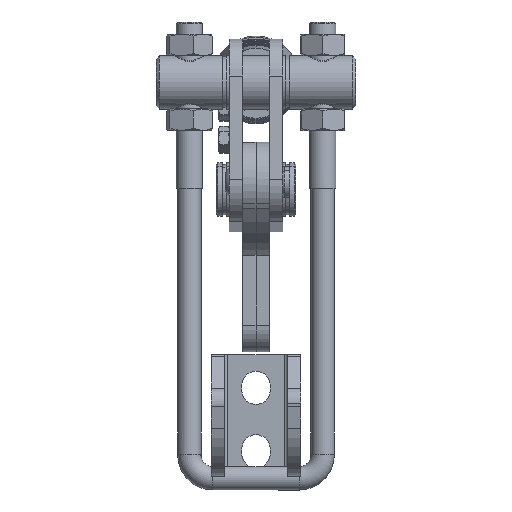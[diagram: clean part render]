
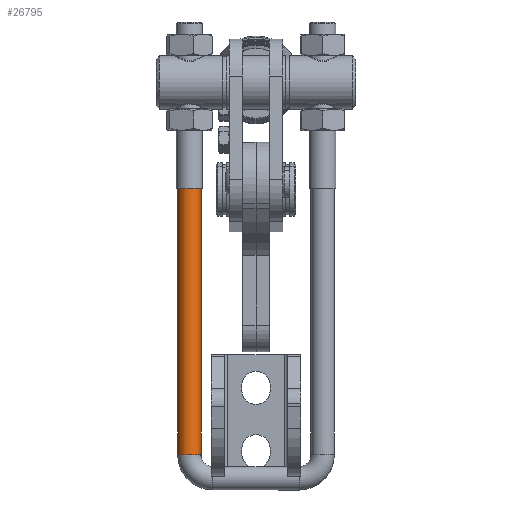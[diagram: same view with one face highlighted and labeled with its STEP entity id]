
A CAD part, left-side view. The second image highlights one B-rep face of the part: STEP entity #26795.
In plain terms, the highlighted cylindrical face has radius 3.5 mm (diameter 7 mm), a partial arc.
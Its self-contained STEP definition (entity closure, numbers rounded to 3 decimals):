
#199 = ORIENTED_EDGE ( 'NONE', *, *, #10025, .T. ) ;
#214 = LINE ( 'NONE', #21619, #7929 ) ;
#1005 = DIRECTION ( 'NONE',  ( 1., 0., 0. ) ) ;
#1051 = CARTESIAN_POINT ( 'NONE',  ( 7., 0., 23.5 ) ) ;
#2888 = VERTEX_POINT ( 'NONE', #13748 ) ;
#3103 = DIRECTION ( 'NONE',  ( 0., 0., -1. ) ) ;
#5924 = VERTEX_POINT ( 'NONE', #9829 ) ;
#7168 = ORIENTED_EDGE ( 'NONE', *, *, #25189, .F. ) ;
#7716 = CARTESIAN_POINT ( 'NONE',  ( 7., 0., 20. ) ) ;
#7902 = AXIS2_PLACEMENT_3D ( 'NONE', #16941, #1005, #3103 ) ;
#7929 = VECTOR ( 'NONE', #18970, 1000. ) ;
#8968 = EDGE_CURVE ( 'NONE', #11286, #5924, #33660, .T. ) ;
#9829 = CARTESIAN_POINT ( 'NONE',  ( 87., 0., 16.5 ) ) ;
#9972 = ORIENTED_EDGE ( 'NONE', *, *, #8968, .F. ) ;
#10025 = EDGE_CURVE ( 'NONE', #2888, #5924, #214, .T. ) ;
#10692 = FACE_OUTER_BOUND ( 'NONE', #20598, .T. ) ;
#10740 = LINE ( 'NONE', #24258, #25133 ) ;
#11286 = VERTEX_POINT ( 'NONE', #19189 ) ;
#13748 = CARTESIAN_POINT ( 'NONE',  ( 7., 0., 16.5 ) ) ;
#15958 = DIRECTION ( 'NONE',  ( 1., 0., 0. ) ) ;
#15968 = VERTEX_POINT ( 'NONE', #1051 ) ;
#16941 = CARTESIAN_POINT ( 'NONE',  ( 87., 0., 20. ) ) ;
#18970 = DIRECTION ( 'NONE',  ( 1., 0., 0. ) ) ;
#19189 = CARTESIAN_POINT ( 'NONE',  ( 87., 0., 23.5 ) ) ;
#19598 = ORIENTED_EDGE ( 'NONE', *, *, #30794, .F. ) ;
#20598 = EDGE_LOOP ( 'NONE', ( #19598, #7168, #199, #9972 ) ) ;
#21104 = DIRECTION ( 'NONE',  ( 1., 0., 0. ) ) ;
#21619 = CARTESIAN_POINT ( 'NONE',  ( 7., 0., 16.5 ) ) ;
#24258 = CARTESIAN_POINT ( 'NONE',  ( 7., 0., 23.5 ) ) ;
#25133 = VECTOR ( 'NONE', #21104, 1000. ) ;
#25189 = EDGE_CURVE ( 'NONE', #2888, #15968, #26030, .T. ) ;
#26030 = CIRCLE ( 'NONE', #28267, 3.5 ) ;
#26795 = ADVANCED_FACE ( 'NONE', ( #10692 ), #34516, .T. ) ;
#26840 = DIRECTION ( 'NONE',  ( 0., 0., 1. ) ) ;
#27213 = AXIS2_PLACEMENT_3D ( 'NONE', #7716, #15958, #32099 ) ;
#28267 = AXIS2_PLACEMENT_3D ( 'NONE', #28950, #34006, #26840 ) ;
#28950 = CARTESIAN_POINT ( 'NONE',  ( 7., 0., 20. ) ) ;
#30794 = EDGE_CURVE ( 'NONE', #15968, #11286, #10740, .T. ) ;
#32099 = DIRECTION ( 'NONE',  ( 0., 0., -1. ) ) ;
#33660 = CIRCLE ( 'NONE', #7902, 3.5 ) ;
#34006 = DIRECTION ( 'NONE',  ( -1., 0., 0. ) ) ;
#34516 = CYLINDRICAL_SURFACE ( 'NONE', #27213, 3.5 ) ;
